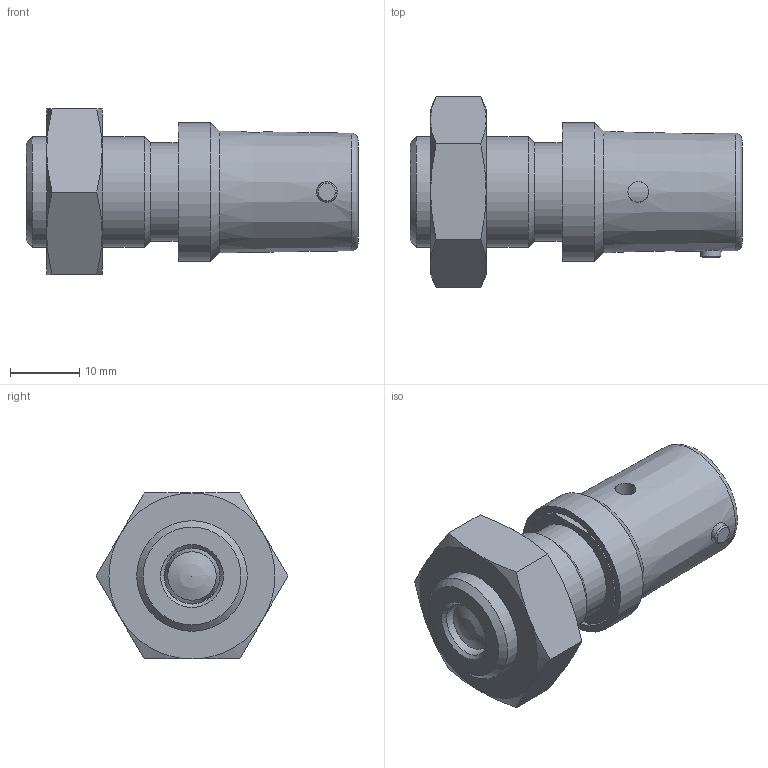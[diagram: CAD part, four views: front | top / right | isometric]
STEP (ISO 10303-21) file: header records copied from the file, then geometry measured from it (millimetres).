
FILE_DESCRIPTION( ( 'STEP AP203' ), '1' );
FILE_NAME( 'C:/Temp/Ganter_Step_05_03_2020/data/3_1/gn816_1/gn_816_1_bk/Locking plunger GN 816.1-8-M16x1,5-BK (deactivated).stp', '2020-03-12T08:56:22', ( 'License CC BY-ND 4.0' ), ( 'CADENAS' ), ' ', 'PARTsolutions', ' ' );
FILE_SCHEMA( ( 'CONFIG_CONTROL_DESIGN' ) );
Length unit declared in the file: millimetre
Products named in the file (4): Locking plunger GN 816.1-8-M16x1,5-BK (deactivated); _GN 816.1-8-M16x1,5-B(0)-b2; _GN 816.1-8-M16x1,5-Bb1; _Lock nut ISO 8675 GN 816-8-M16x1,5-AK
Assembly tree (3 placements, depth 2):
  Locking plunger GN 816.1-8-M16x1,5-BK (deactivated)
    _GN 816.1-8-M16x1,5-B(0)-b2
    _GN 816.1-8-M16x1,5-Bb1
    _Lock nut ISO 8675 GN 816-8-M16x1,5-AK
Bounding box: 48 x 27.71 x 24 mm (x, y, z)
Volume: 11485.9 mm3; surface area: 8181.4 mm2
Topology: 3 solids, 3 shells, 66 faces, 134 edges, 80 vertices
Faces by surface type: cone 27, plane 20, cylinder 16, torus 2, sphere 1
Full cylindrical faces by diameter (mm): 2.9 x2, 3 x2, 7 x1, 8 x1, 8.1 x1, 11 x1, 11.1 x1, 14.2 x1, 14.376 x1, 16 x1, 18 x1, 20 x1
Entity records: 2057 total; most frequent: CARTESIAN_POINT 705, DIRECTION 258, ORIENTED_EDGE 194, AXIS2_PLACEMENT_3D 123, EDGE_LOOP 112, EDGE_CURVE 97, FACE_OUTER_BOUND 82, VERTEX_POINT 76
